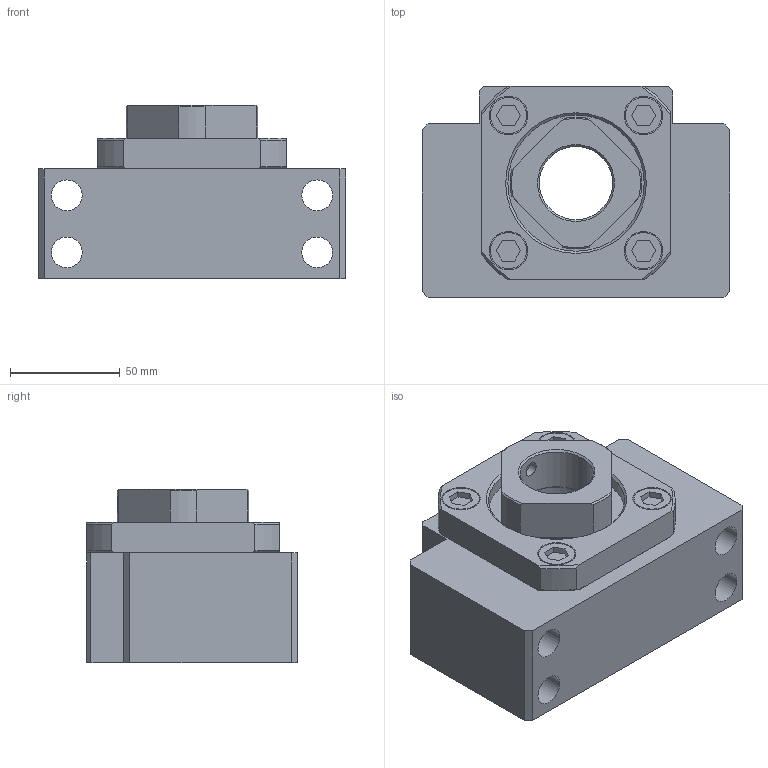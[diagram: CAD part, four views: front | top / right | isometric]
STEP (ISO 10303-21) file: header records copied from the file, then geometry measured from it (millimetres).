
FILE_DESCRIPTION(/* description */ ('STEP AP214'),/* implementation_level */ '2;1');
FILE_NAME(/* name */ 'BK35______CAD_NO_Yes',/* time_stamp */ '2026-09-17T13:01:35+02:00',/* author */ ('License CC BY-ND 4.0'),/* organization */ ('CADENAS'),/* preprocessor_version */ 'ST-DEVELOPER v20',/* originating_system */ 'PARTsolutions',/* authorisation */ ' ');
FILE_SCHEMA (('AUTOMOTIVE_DESIGN {1 0 10303 214 3 1 1}'));
Length unit declared in the file: millimetre
Products named in the file (4): BK35______CAD_NO_Yes; BK 35; BK 35collar; RN 35
Assembly tree (4 placements, depth 2):
  BK35______CAD_NO_Yes
    BK 35
    BK 35collar  x2
    RN 35
Bounding box: 140 x 96 x 79 mm (x, y, z)
Volume: 625359.2 mm3; surface area: 112725.3 mm2
Topology: 4 solids, 4 shells, 153 faces, 355 edges, 236 vertices
Faces by surface type: plane 94, cylinder 38, cone 21
Full cylindrical faces by diameter (mm): 6.647 x1, 8 x1, 14 x4, 16.5 x4, 17.5 x4, 20 x4, 33.376 x1, 35 x3, 44.3 x4, 46 x1, 62 x2, 62.1 x1
Entity records: 4267 total; most frequent: CARTESIAN_POINT 836, DIRECTION 678, ORIENTED_EDGE 626, EDGE_CURVE 313, AXIS2_PLACEMENT_3D 253, VERTEX_POINT 229, EDGE_LOOP 222, FACE_BOUND 222
